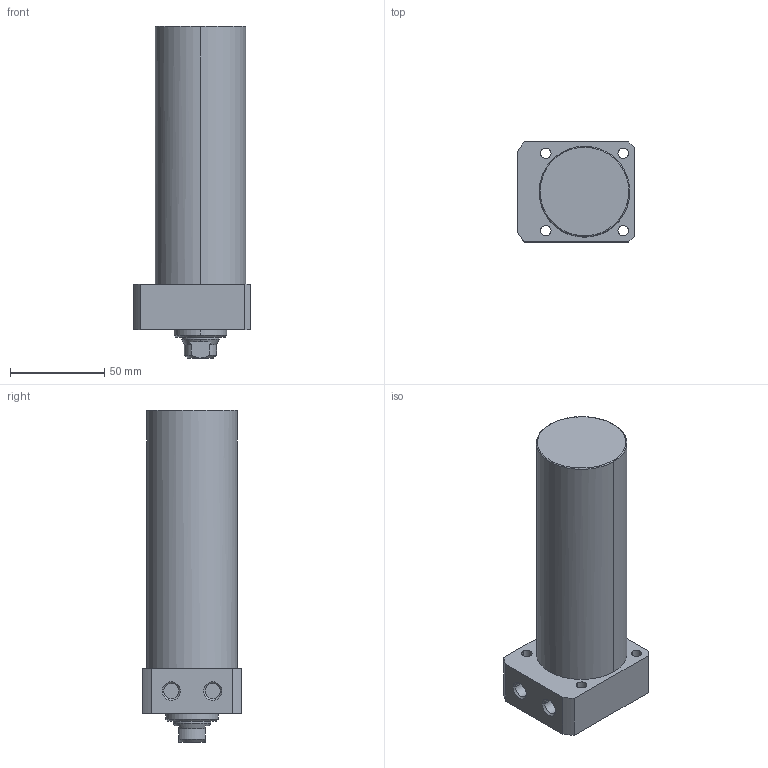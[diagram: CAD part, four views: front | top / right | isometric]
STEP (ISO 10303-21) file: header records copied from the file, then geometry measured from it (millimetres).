
FILE_DESCRIPTION((' '),'2;1');
FILE_NAME( 'TLLR-048CA-110.STEP.stp', '2025-10-24T16:34:31', (' '), ('--- Datakit www.datakit.com---'), ' Datakit CrossCadWare V2024.1 Dec 21 2023', 'Mastercam 2025', ' ');
FILE_SCHEMA(('AUTOMOTIVE_DESIGN { 1 0 10303 214 1 1 1 1 }'));
Length unit declared in the file: millimetre
Products named in the file (1): TLLR-048CA-110
Bounding box: 62 x 53 x 176 mm (x, y, z)
Volume: 326259.5 mm3; surface area: 36022.6 mm2
Topology: 1 solids, 1 shells, 63 faces, 177 edges, 122 vertices
Faces by surface type: cylinder 28, plane 19, cone 14, torus 2
Entity records: 2172 total; most frequent: CARTESIAN_POINT 409, DIRECTION 400, ORIENTED_EDGE 350, EDGE_CURVE 175, AXIS2_PLACEMENT_3D 169, VERTEX_POINT 122, CIRCLE 105, EDGE_LOOP 79
